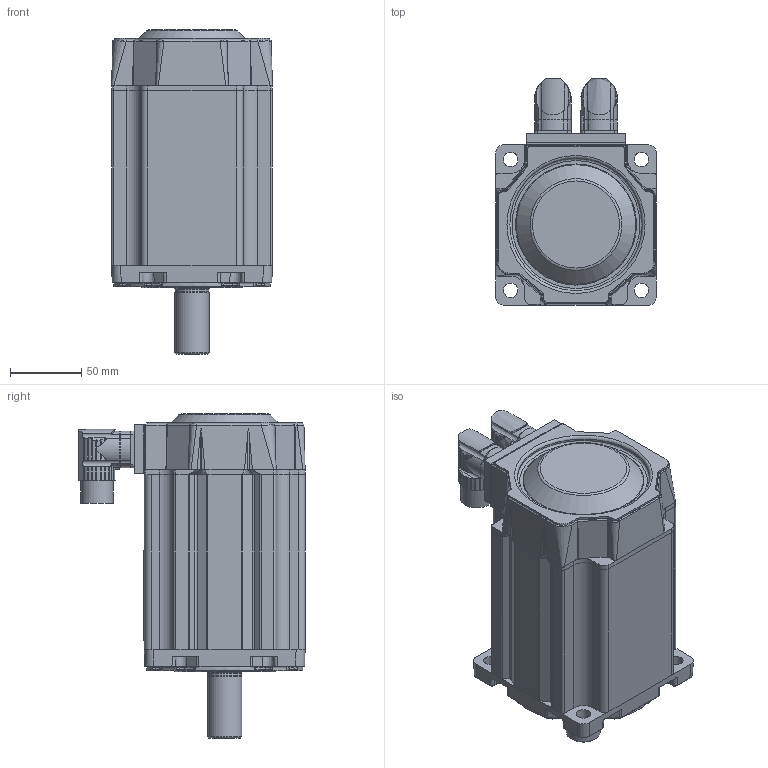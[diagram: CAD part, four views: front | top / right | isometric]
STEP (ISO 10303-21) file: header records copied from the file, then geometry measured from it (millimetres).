
FILE_DESCRIPTION((''),'2;1');
FILE_NAME('C:\CAD_work\Dummy_Modeling_Project_02-12-05\3D MODELS\MPP1153XXX_NPSN.stp','2005-12-20T17:13:15',('jevans'),(''),'Autodesk Inventor 10','Autodesk Inventor 10','');
FILE_SCHEMA(('AUTOMOTIVE_DESIGN { 1 0 10303 214 1 1 1 1 }'));
Length unit declared in the file: inch
Products named in the file (1): MPP115_MOTOR
Bounding box: 113.03 x 159.03 x 227.79 mm (x, y, z)
Volume: 1933541.5 mm3; surface area: 156051.3 mm2
Topology: 2 solids, 2 shells, 1017 faces, 2591 edges, 1624 vertices
Faces by surface type: bspline 355, cylinder 321, plane 240, cone 82, torus 17, sphere 2
Full cylindrical faces by diameter (mm): 1.143 x17, 2.032 x6, 2.794 x2, 19.05 x1, 19.685 x1, 22.86 x1, 23.647 x1, 24.003 x1, 24.994 x2, 31.75 x1, 47.549 x1, 54.61 x1, 61.468 x1, 62.001 x1, 62.027 x1, 62.268 x1, 65.634 x1, 69.85 x1, 71.12 x1, 93.066 x1, 109.995 x1
Entity records: 41628 total; most frequent: CARTESIAN_POINT 19316, ORIENTED_EDGE 4952, DIRECTION 4077, EDGE_CURVE 2476, VERTEX_POINT 1598, AXIS2_PLACEMENT_3D 1592, EDGE_LOOP 1168, FACE_OUTER_BOUND 1017
